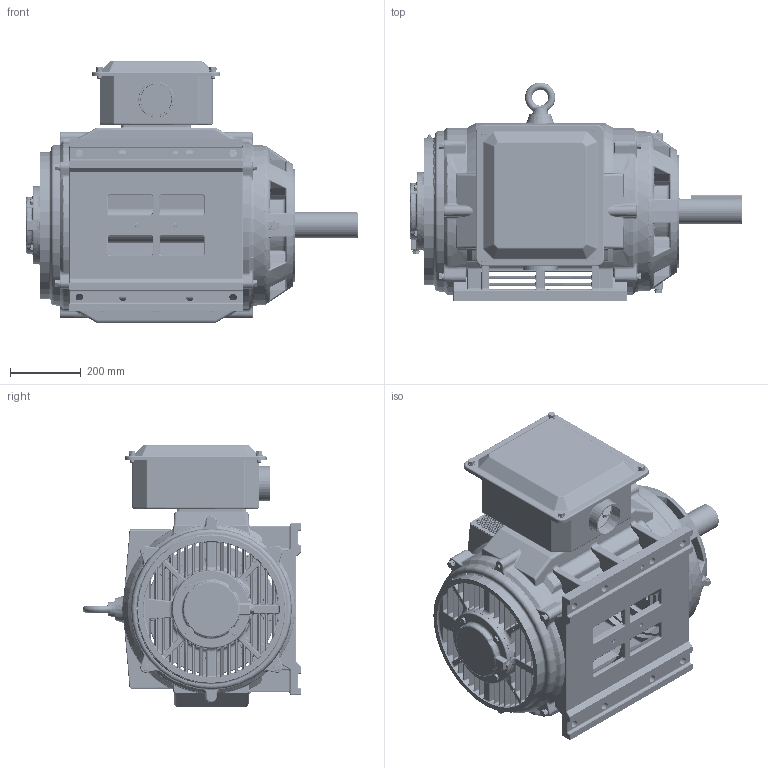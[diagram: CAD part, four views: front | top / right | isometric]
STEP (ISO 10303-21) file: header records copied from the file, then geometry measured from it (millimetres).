
FILE_DESCRIPTION (( 'STEP AP203' ), '1' );
FILE_NAME ('SS620755-100_RevC.STEP', '2022-07-14T00:39:08', ( '' ), ( '' ), 'SwSTEP 2.0', 'SolidWorks 2021', '' );
FILE_SCHEMA (( 'CONFIG_CONTROL_DESIGN' ));
Products named in the file (1): SS620755-100_RevC
Bounding box: 936.2 x 617 x 737.5 mm (x, y, z)
Volume: 37267540 mm3; surface area: 5633821.4 mm2
Topology: 79 solids, 79 shells, 13006 faces, 35740 edges, 22597 vertices
Faces by surface type: cylinder 5400, plane 4590, bspline 1575, torus 950, cone 368, sphere 123
Entity records: 524157 total; most frequent: CARTESIAN_POINT 197931, ORIENTED_EDGE 70852, DIRECTION 66235, EDGE_CURVE 35426, AXIS2_PLACEMENT_3D 24334, VERTEX_POINT 22567, VECTOR 17567, LINE 17567
